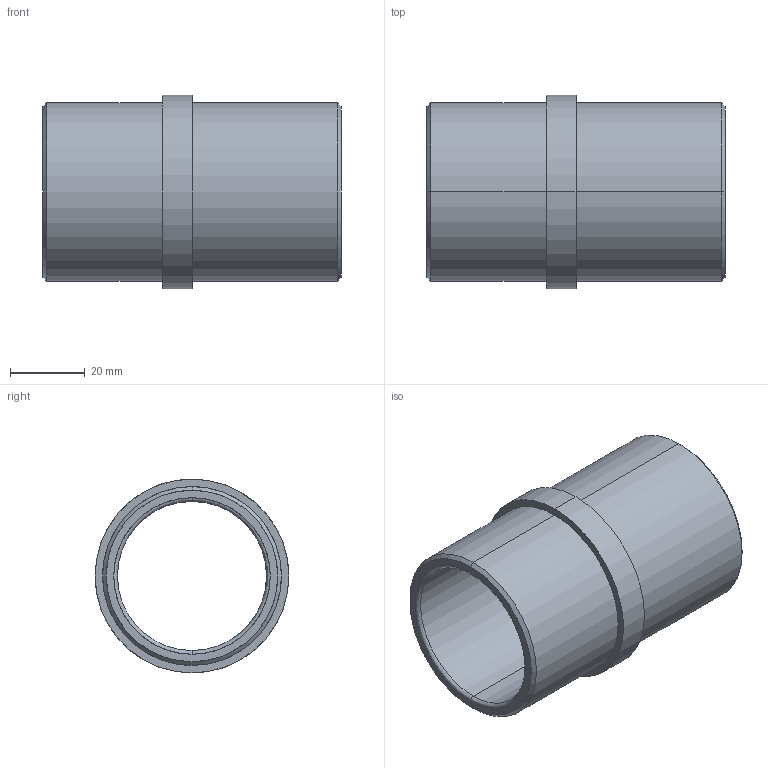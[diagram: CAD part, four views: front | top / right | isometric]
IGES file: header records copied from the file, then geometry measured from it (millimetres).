
Start section: START RECORD GO HERE.
Global section: file name: 355-40X80.igs; native system: DASSAULT SYSTEMES CATIA V5 R20 - www.3ds.com; preprocessor: CATIA Version 5 Release 20 ; author: Utente; organization: NB04-ASUS; date: 20210421.105311; units: millimetre
Bounding box: 80 x 52 x 52 mm (x, y, z)
Surface area: 23665.3 mm2 (no closed solid volume)
Topology: 0 solids, 0 shells, 20 faces, 128 edges, 128 vertices
Faces by surface type: revolution 16, plane 4
